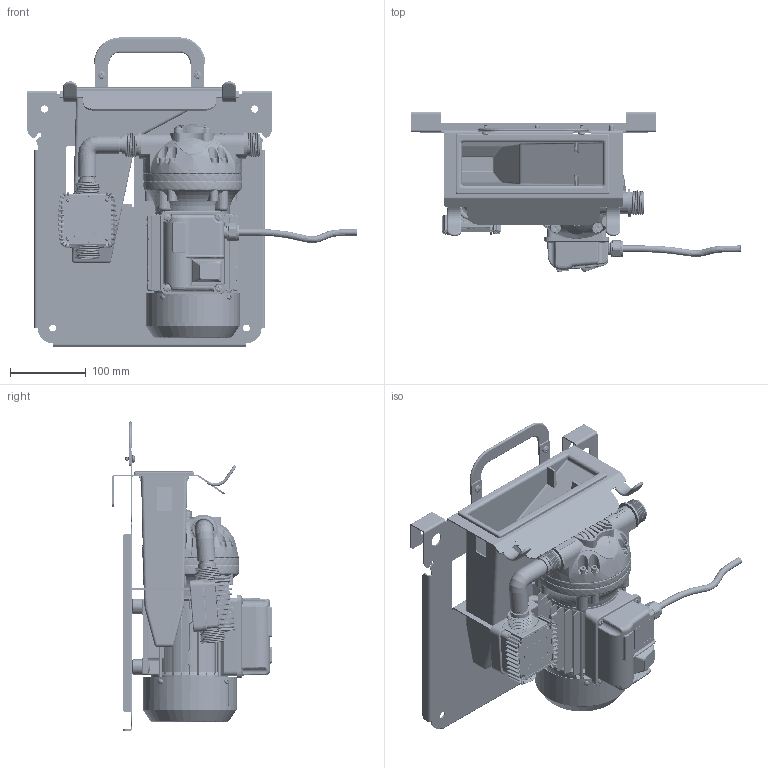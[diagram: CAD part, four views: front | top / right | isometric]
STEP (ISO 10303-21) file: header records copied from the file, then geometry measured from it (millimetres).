
FILE_DESCRIPTION(/* description */ (''),/* implementation_level */ '2;1');
FILE_NAME(/* name */ '180010-03.step',/* time_stamp */ '2025-07-25T14:22:29-05:00',/* author */ (''),/* organization */ (''),/* preprocessor_version */ 'ST-DEVELOPER v20.1',/* originating_system */ 'Autodesk Translation Framework v14.10.0.0',/* authorisation */ '');
FILE_SCHEMA (('AUTOMOTIVE_DESIGN { 1 0 10303 214 3 1 1 }'));
Products named in the file (26): 180010-03; 180_PnBD01_TUOJIA; 180_PnBD01_QIANGHEGAIGUO; 180_PnBD01_BASHOU; 180_PnBD01_WANGJIE; 180902-01; 155600-01; 180110-02; AS 1474 - M6; 900600-35; 180_PnBD01 6' Hose; 905002-03; 905500-02; 180_PnBD01 Nozzle Hose Barb; 180901-01; 180902-02; 922144-02; 180100-01; 922119-01; 180_PnBD01_PANGTOULUODINGM5X10; 180_PnBD01 Barb o-ring; 180_PnBD01_JIETOU; 180_PnBD01_JIETOULUOMU; 180_PnBD01 Worm Drive Clamp; 180_PnBD01 D08SS Rubber Foot; Bolt GB/T 14 M6 x 30
Assembly tree (39 placements, depth 2):
  180010-03
    180_PnBD01_TUOJIA
    180_PnBD01_QIANGHEGAIGUO
    180_PnBD01_BASHOU
    180_PnBD01_PANGTOULUODINGM5X10  x2
    180_PnBD01_WANGJIE
    180_PnBD01_JIETOULUOMU  x4
    180902-01
    155600-01
    180110-02
    180_PnBD01 Barb o-ring  x2
    180_PnBD01_JIETOU  x2
    180_PnBD01 Worm Drive Clamp  x4
    180_PnBD01 D08SS Rubber Foot  x4
    AS 1474 - M6
    900600-35
    905002-03
    905500-02
    180_PnBD01 Nozzle Hose Barb
    180901-01
    180902-02
    922144-02
    180100-01
    Bolt GB/T 14 M6 x 30  x4
    922119-01
  180_PnBD01 6' Hose
Bounding box: 435.49 x 211.37 x 408.7 mm (x, y, z)
Volume: 1640851.4 mm3; surface area: 1328613.4 mm2
Topology: 139 solids, 141 shells, 16162 faces, 41569 edges, 25790 vertices
Faces by surface type: plane 5548, cylinder 3883, bspline 3565, torus 1714, cone 1159, sphere 293
Full cylindrical faces by diameter (mm): 1.5 x5, 1.85 x4, 2 x6, 2.024 x5, 2.1 x2, 2.263 x2, 2.5 x11, 2.7 x56, 2.8 x21, 2.9 x4, 3 x17, 3.2 x5, 3.3 x1, 3.4 x10, 3.5 x50, 3.9 x111, 4 x14, 4.1 x5, 4.2 x7, 4.3 x4, 4.5 x23, 4.773 x4, 4.8 x2, 4.9 x382, 4.917 x1, 5 x10, 5.2 x10, 5.4 x4, 5.5 x8, 5.6 x5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
Entity records: 994868 total; most frequent: CARTESIAN_POINT 611725, ORIENTED_EDGE 82036, DIRECTION 69721, EDGE_CURVE 41018, AXIS2_PLACEMENT_3D 26464, VERTEX_POINT 25615, EDGE_LOOP 17005, LINE 16793
